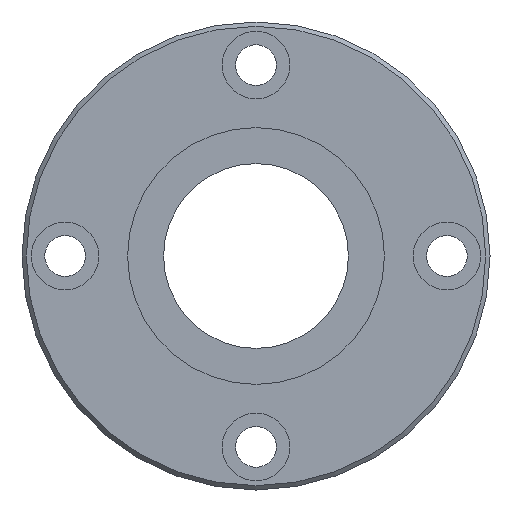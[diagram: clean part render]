
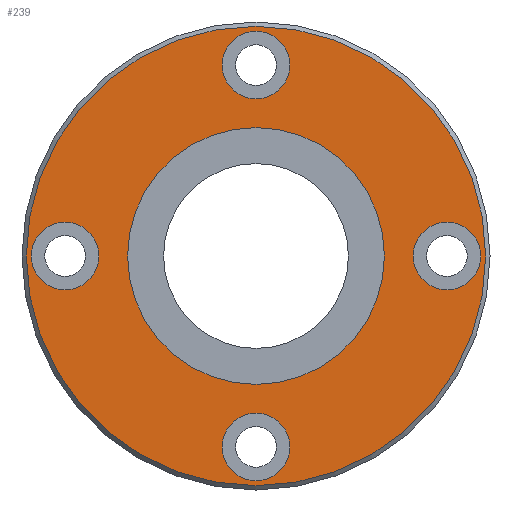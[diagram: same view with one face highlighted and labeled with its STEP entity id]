
A CAD part, left-side view. The second image highlights one B-rep face of the part: STEP entity #239.
In plain terms, the highlighted planar face has unit normal (-1, 0, 0).
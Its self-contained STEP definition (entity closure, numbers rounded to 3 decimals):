
#164=CARTESIAN_POINT('',(0.0,0.,37.3));
#165=VERTEX_POINT('',#164);
#166=CARTESIAN_POINT('',(0.0,0.0,0.0));
#167=DIRECTION('',(1.0,0.0,0.0));
#168=DIRECTION('',(0.0,0.0,-1.0));
#169=AXIS2_PLACEMENT_3D('',#166,#167,#168);
#170=CIRCLE('',#169,37.3);
#171=EDGE_CURVE('',#165,#165,#170,.T.);
#176=CARTESIAN_POINT('',(0.0,0.0,22.175));
#177=DIRECTION('',(-1.0,0.0,0.0));
#178=DIRECTION('',(0.0,0.0,1.0));
#179=AXIS2_PLACEMENT_3D('',#176,#177,#178);
#180=PLANE('',#179);
#181=ORIENTED_EDGE('',*,*,#171,.F.);
#182=EDGE_LOOP('',(#181));
#183=FACE_OUTER_BOUND('',#182,.T.);
#184=CARTESIAN_POINT('',(0.0,0.0,20.85));
#185=VERTEX_POINT('',#184);
#186=CARTESIAN_POINT('',(0.0,0.0,0.0));
#187=DIRECTION('',(-1.0,0.0,0.0));
#188=DIRECTION('',(0.0,0.0,1.0));
#189=AXIS2_PLACEMENT_3D('',#186,#187,#188);
#190=CIRCLE('',#189,20.85);
#191=EDGE_CURVE('',#185,#185,#190,.T.);
#192=ORIENTED_EDGE('',*,*,#191,.F.);
#193=EDGE_LOOP('',(#192));
#194=FACE_BOUND('',#193,.T.);
#195=CARTESIAN_POINT('',(0.0,36.5,0.));
#196=VERTEX_POINT('',#195);
#197=CARTESIAN_POINT('',(0.0,31.0,0.));
#198=DIRECTION('',(1.0,0.0,0.0));
#199=DIRECTION('',(0.0,1.0,0.0));
#200=AXIS2_PLACEMENT_3D('',#197,#198,#199);
#201=CIRCLE('',#200,5.5);
#202=EDGE_CURVE('',#196,#196,#201,.T.);
#203=ORIENTED_EDGE('',*,*,#202,.T.);
#204=EDGE_LOOP('',(#203));
#205=FACE_BOUND('',#204,.T.);
#206=CARTESIAN_POINT('',(0.0,-25.5,0.));
#207=VERTEX_POINT('',#206);
#208=CARTESIAN_POINT('',(0.0,-31.0,0.));
#209=DIRECTION('',(1.0,0.0,0.0));
#210=DIRECTION('',(0.0,1.0,0.0));
#211=AXIS2_PLACEMENT_3D('',#208,#209,#210);
#212=CIRCLE('',#211,5.5);
#213=EDGE_CURVE('',#207,#207,#212,.T.);
#214=ORIENTED_EDGE('',*,*,#213,.T.);
#215=EDGE_LOOP('',(#214));
#216=FACE_BOUND('',#215,.T.);
#217=CARTESIAN_POINT('',(0.0,5.5,31.0));
#218=VERTEX_POINT('',#217);
#219=CARTESIAN_POINT('',(0.0,0.,31.0));
#220=DIRECTION('',(1.0,0.0,0.0));
#221=DIRECTION('',(0.0,1.0,0.0));
#222=AXIS2_PLACEMENT_3D('',#219,#220,#221);
#223=CIRCLE('',#222,5.5);
#224=EDGE_CURVE('',#218,#218,#223,.T.);
#225=ORIENTED_EDGE('',*,*,#224,.T.);
#226=EDGE_LOOP('',(#225));
#227=FACE_BOUND('',#226,.T.);
#228=CARTESIAN_POINT('',(0.0,5.5,-31.0));
#229=VERTEX_POINT('',#228);
#230=CARTESIAN_POINT('',(0.0,0.,-31.0));
#231=DIRECTION('',(1.0,0.0,0.0));
#232=DIRECTION('',(0.0,1.0,0.0));
#233=AXIS2_PLACEMENT_3D('',#230,#231,#232);
#234=CIRCLE('',#233,5.5);
#235=EDGE_CURVE('',#229,#229,#234,.T.);
#236=ORIENTED_EDGE('',*,*,#235,.T.);
#237=EDGE_LOOP('',(#236));
#238=FACE_BOUND('',#237,.T.);
#239=ADVANCED_FACE('',(#183,#194,#205,#216,#227,#238),#180,.T.);
